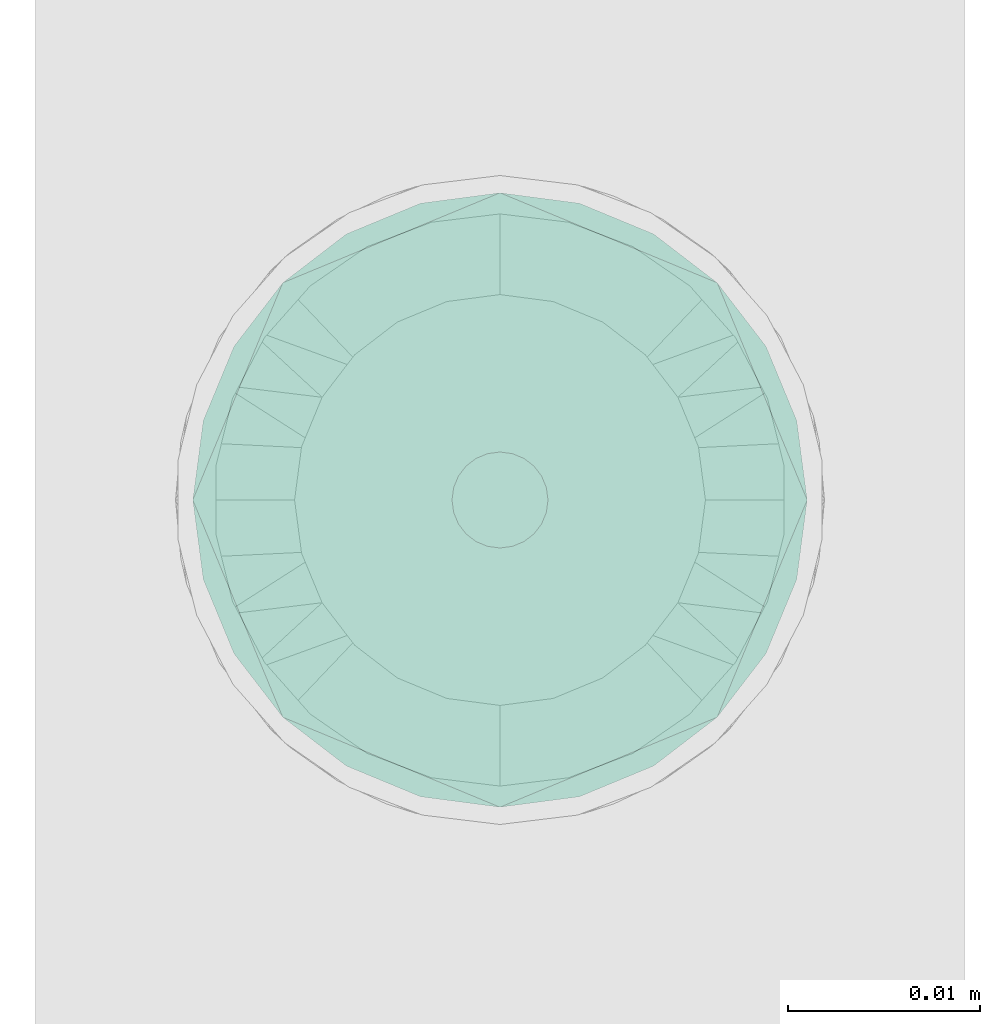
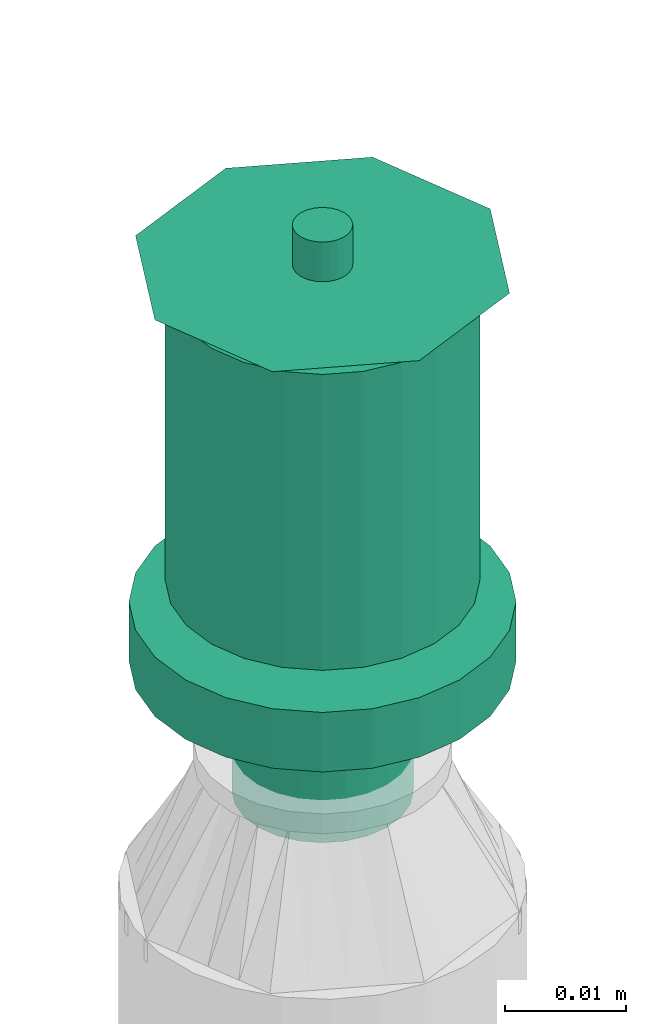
# One storey, part 45 of 63: 1 flow terminal.
"""IFC2X3 building model written with IfcOpenShell, lengths in millimetres."""

from ifc_helpers import new_model, entity, si_unit, converted_unit, derived_unit, direction, frame, origin_with_axes, place, context, subcontext, project, spatial, open_shell, surface_model, source, transform, mapped, type_object, element, save


model = new_model("IFC2X3")

# Units and contexts
model_context = context("Model", 3, precision=0.01, world=frame((0.0, 4.29681676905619e-09, 0.0)), true_north=direction((4.01073788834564e-13, 1.0)))
plan_context = context("Plan", 3, precision=0.01, world=frame((0.0, 4.29681676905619e-09, 0.0)), true_north=direction((4.01073788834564e-13, 1.0)))
body_context = subcontext(model_context, "Body", "Model", "MODEL_VIEW")
ifc_project = project(units=[converted_unit("PLANEANGLEUNIT", "DEGREE", entity("IfcPositiveLengthMeasure", 0.0174532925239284), si_unit("PLANEANGLEUNIT", "RADIAN"), dimensions=[0, 0, 0, 0, 0, 0, 0]), si_unit("AREAUNIT", "SQUARE_METRE"), si_unit("LENGTHUNIT", "METRE", prefix="MILLI"), si_unit("MASSUNIT", "GRAM", prefix="KILO"), si_unit("POWERUNIT", "WATT"), si_unit("PRESSUREUNIT", "PASCAL", prefix="KILO"), si_unit("FORCEUNIT", "NEWTON", prefix="KILO"), si_unit("ELECTRICVOLTAGEUNIT", "VOLT"), si_unit("ELECTRICCURRENTUNIT", "AMPERE"), si_unit("THERMODYNAMICTEMPERATUREUNIT", "DEGREE_CELSIUS"), si_unit("TIMEUNIT", "SECOND"), si_unit("VOLUMEUNIT", "CUBIC_METRE"), derived_unit("LINEARVELOCITYUNIT", [(si_unit("LENGTHUNIT", "METRE"), 1), (si_unit("TIMEUNIT", "SECOND"), -1)]), derived_unit("VOLUMETRICFLOWRATEUNIT", [(si_unit("VOLUMEUNIT", "CUBIC_METRE"), 1), (si_unit("TIMEUNIT", "SECOND"), -1)]), derived_unit("THERMALTRANSMITTANCEUNIT", [(si_unit("POWERUNIT", "WATT"), 1), (si_unit("THERMODYNAMICTEMPERATUREUNIT", "KELVIN"), -1), (si_unit("AREAUNIT", "SQUARE_METRE"), -1)]), derived_unit("SOUNDPRESSUREUNIT", [(si_unit("PRESSUREUNIT", "PASCAL"), 1)])], contexts=[model_context, plan_context])

# Site, building, storey
site_placement = place(None, frame((0.0, -4.29681676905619e-09, 0.0), z_axis=(0.0, 0.0, 1.0), x_axis=(1.0, 0.0, 0.0)))
site = spatial("IfcSite", under=ifc_project, at=site_placement, CompositionType="ELEMENT")
building_placement = place(site_placement, frame((0.0, 4.29681676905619e-09, 0.0), z_axis=(0.0, 0.0, 1.0), x_axis=(1.0, 0.0, 0.0)))
building = spatial("IfcBuilding", under=site, at=building_placement, Name="mc-building", CompositionType="ELEMENT")
storey_placement = place(building_placement, frame((0.0, 0.0, 207370.0), z_axis=(0.0, 0.0, 1.0), x_axis=(1.0, 0.0, 0.0)))
storey = spatial("IfcBuildingStorey", under=building, at=storey_placement, Name="Nivå E", CompositionType="ELEMENT", Elevation=207370.0)

# Flow terminal
fire_suppression_terminal_type = type_object("IfcFireSuppressionTerminalType", Name="68DGR-STD-STÅENDE", PredefinedType="NOTDEFINED")
shared_shape = source(origin_with_axes(), body_context, "Body", "SurfaceModel", [
    surface_model("IfcShellBasedSurfaceModel", [(3.36465, -12.55704, 51.0), (6.5, -11.25833, 51.0), (9.19239, -9.19239, 51.0), (12.55704, -3.36465, 51.0), (-11.25833, -6.5, 51.0), (11.25833, -6.5, 51.0), (-13.0, 0.0, 51.0), (0.0, -13.0, 51.0), (-6.5, -11.25833, 51.0), (-3.36465, -12.55704, 51.0), (-9.19239, -9.19239, 51.0), (-12.55704, -3.36465, 51.0), (13.0, 0.0, 51.0), (12.55704, 3.36465, 51.0), (11.25833, 6.5, 51.0), (9.19239, 9.19239, 51.0), (6.5, 11.25833, 51.0), (3.36465, 12.55704, 51.0), (0.0, 13.0, 51.0), (-3.36465, 12.55704, 51.0), (-12.55704, 3.36465, 51.0), (-9.19239, 9.19239, 51.0), (-11.25833, 6.5, 51.0), (-6.5, 11.25833, 51.0), (0.0, 13.0, 21.14766), (3.36465, 12.55704, 21.14766), (6.5, 11.25833, 21.14766), (-3.36465, 12.55704, 21.14766), (9.19239, 9.19239, 21.14766), (11.25833, 6.5, 21.14766), (12.55704, 3.36465, 21.14766), (-12.55704, 3.36465, 21.14766), (-11.25833, -6.5, 21.14766), (-9.19239, 9.19239, 21.14766), (-6.5, 11.25833, 21.14766), (-11.25833, 6.5, 21.14766), (-13.0, 0.0, 21.14766), (12.55704, -3.36465, 21.14766), (9.19239, -9.19239, 21.14766), (11.25833, -6.5, 21.14766), (6.5, -11.25833, 21.14766), (3.36465, -12.55704, 21.14766), (-6.5, -11.25833, 21.14766), (-9.19239, -9.19239, 21.14766), (-12.55704, -3.36465, 21.14766), (0.0, -13.0, 21.14766), (-3.36465, -12.55704, 21.14766), (13.0, 0.0, 21.14766), (7.24444, -1.94114, 0.1), (1.94114, -7.24444, 0.1), (3.75, -6.49519, 0.1), (5.3033, -5.3033, 0.1), (-5.3033, -5.3033, 0.1), (6.49519, -3.75, 0.1), (5.3033, 5.3033, 0.1), (0.0, -7.5, 0.1), (-3.75, -6.49519, 0.1), (-1.94114, -7.24444, 0.1), (-7.24444, -1.94114, 0.1), (-6.49519, -3.75, 0.1), (-7.24444, 1.94114, 0.1), (7.5, 0.0, 0.1), (6.49519, 3.75, 0.1), (-6.49519, 3.75, 0.1), (1.94114, 7.24444, 0.1), (0.0, 7.5, 0.1), (3.75, 6.49519, 0.1), (-7.5, 0.0, 0.1), (-5.3033, 5.3033, 0.1), (-1.94114, 7.24444, 0.1), (-3.75, 6.49519, 0.1), (7.24444, 1.94114, 0.1), (1.94114, 7.24444, -0.1), (-6.49519, 3.75, -0.1), (0.0, 7.5, -0.1), (5.3033, 5.3033, -0.1), (3.75, 6.49519, -0.1), (6.49519, 3.75, -0.1), (7.24444, 1.94114, -0.1), (-1.94114, 7.24444, -0.1), (-5.3033, 5.3033, -0.1), (-3.75, 6.49519, -0.1), (-7.24444, 1.94114, -0.1), (-7.24444, -1.94114, -0.1), (-7.5, 0.0, -0.1), (7.5, 0.0, -0.1), (7.24444, -1.94114, -0.1), (-5.3033, -5.3033, -0.1), (1.94114, -7.24444, -0.1), (6.49519, -3.75, -0.1), (5.3033, -5.3033, -0.1), (3.75, -6.49519, -0.1), (-6.49519, -3.75, -0.1), (-3.75, -6.49519, -0.1), (0.0, -7.5, -0.1), (-1.94114, -7.24444, -0.1), (0.0, -2.5, 51.0), (-2.5, 0.0, 51.0), (0.0, 2.5, 51.0), (2.5, 0.0, 51.0), (0.0, -16.0, 53.0), (11.31371, -11.31371, 53.0), (-11.31371, -11.31371, 53.0), (-16.0, 0.0, 53.0), (16.0, 0.0, 53.0), (11.31371, 11.31371, 53.0), (0.0, 16.0, 53.0), (-11.31371, 11.31371, 53.0), (1.25, -2.16506, 57.0), (0.0, -2.5, 57.0), (0.64705, -2.41481, 57.0), (2.41481, -0.64705, 57.0), (1.76777, -1.76777, 57.0), (-2.41481, -0.64705, 57.0), (-2.5, 0.0, 57.0), (2.16506, -1.25, 57.0), (-1.25, -2.16506, 57.0), (-0.64705, -2.41481, 57.0), (-1.76777, -1.76777, 57.0), (-2.16506, -1.25, 57.0), (2.5, 0.0, 57.0), (2.41481, 0.64705, 57.0), (2.16506, 1.25, 57.0), (1.76777, 1.76777, 57.0), (0.64705, 2.41481, 57.0), (1.25, 2.16506, 57.0), (-1.76777, 1.76777, 57.0), (0.0, 2.5, 57.0), (-2.16506, 1.25, 57.0), (-2.41481, 0.64705, 57.0), (-0.64705, 2.41481, 57.0), (-1.25, 2.16506, 57.0), (1.25, 2.16506, 51.0), (1.76777, 1.76777, 51.0), (1.15, 1.99186, 51.0), (0.59528, 2.22163, 51.0), (0.64705, 2.41481, 51.0), (0.0, 2.3, 51.0), (1.62635, 1.62635, 51.0), (2.41481, 0.64705, 51.0), (2.3, 0.0, 51.0), (2.22163, 0.59528, 51.0), (2.16506, 1.25, 51.0), (1.99186, 1.15, 51.0), (-0.59528, 2.22163, 51.0), (-0.64705, 2.41481, 51.0), (-1.15, 1.99186, 51.0), (-1.76777, 1.76777, 51.0), (-1.25, 2.16506, 51.0), (-1.62635, 1.62635, 51.0), (-1.99186, 1.15, 51.0), (-2.16506, 1.25, 51.0), (-2.22163, 0.59528, 51.0), (-2.41481, 0.64705, 51.0), (-2.3, 0.0, 51.0), (2.41481, -0.64705, 51.0), (2.22163, -0.59528, 51.0), (1.99186, -1.15, 51.0), (2.16506, -1.25, 51.0), (1.62635, -1.62635, 51.0), (1.76777, -1.76777, 51.0), (1.25, -2.16506, 51.0), (1.15, -1.99186, 51.0), (0.59528, -2.22163, 51.0), (0.64705, -2.41481, 51.0), (0.0, -2.3, 51.0), (-2.16506, -1.25, 51.0), (-1.99186, -1.15, 51.0), (-1.76777, -1.76777, 51.0), (-1.62635, -1.62635, 51.0), (-2.41481, -0.64705, 51.0), (-2.22163, -0.59528, 51.0), (-0.59528, -2.22163, 51.0), (-0.64705, -2.41481, 51.0), (-1.15, -1.99186, 51.0), (-1.25, -2.16506, 51.0), (1.62635, -1.62635, 56.8), (1.15, -1.99186, 56.8), (0.59528, -2.22163, 56.8), (0.0, -2.3, 56.8), (2.22163, 0.59528, 56.8), (1.99186, -1.15, 56.8), (2.22163, -0.59528, 56.8), (-0.59528, -2.22163, 56.8), (-1.15, -1.99186, 56.8), (-1.62635, -1.62635, 56.8), (-1.99186, -1.15, 56.8), (-2.22163, -0.59528, 56.8), (-1.99186, 1.15, 56.8), (2.3, 0.0, 56.8), (1.62635, 1.62635, 56.8), (1.99186, 1.15, 56.8), (1.15, 1.99186, 56.8), (0.0, 2.3, 56.8), (0.59528, 2.22163, 56.8), (-2.22163, 0.59528, 56.8), (-2.3, 0.0, 56.8), (-1.15, 1.99186, 56.8), (-0.59528, 2.22163, 56.8), (-1.62635, 1.62635, 56.8), (4.1411, -15.45481, 19.0), (8.0, -13.85641, 19.0), (11.31371, -11.31371, 19.0), (-8.0, -13.85641, 19.0), (15.45481, -4.1411, 19.0), (16.0, 0.0, 19.0), (13.85641, -8.0, 19.0), (0.0, -16.0, 19.0), (-4.1411, -15.45481, 19.0), (-13.85641, -8.0, 19.0), (-11.31371, -11.31371, 19.0), (-15.45481, -4.1411, 19.0), (15.45481, 4.1411, 19.0), (13.85641, 8.0, 19.0), (11.31371, 11.31371, 19.0), (-4.1411, 15.45481, 19.0), (8.0, 13.85641, 19.0), (4.1411, 15.45481, 19.0), (0.0, 16.0, 19.0), (-13.85641, 8.0, 19.0), (-15.45481, 4.1411, 19.0), (-16.0, 0.0, 19.0), (-11.31371, 11.31371, 19.0), (-8.0, 13.85641, 19.0), (0.0, 16.0, 13.0), (4.1411, 15.45481, 13.0), (8.0, 13.85641, 13.0), (-4.1411, 15.45481, 13.0), (11.31371, 11.31371, 13.0), (13.85641, 8.0, 13.0), (15.45481, 4.1411, 13.0), (-15.45481, -4.1411, 13.0), (-11.31371, 11.31371, 13.0), (-8.0, 13.85641, 13.0), (-13.85641, 8.0, 13.0), (-15.45481, 4.1411, 13.0), (-16.0, 0.0, 13.0), (4.1411, -15.45481, 13.0), (16.0, 0.0, 13.0), (15.45481, -4.1411, 13.0), (13.85641, -8.0, 13.0), (11.31371, -11.31371, 13.0), (8.0, -13.85641, 13.0), (-8.0, -13.85641, 13.0), (-13.85641, -8.0, 13.0), (-11.31371, -11.31371, 13.0), (0.0, -16.0, 13.0), (-4.1411, -15.45481, 13.0), (7.24444, -1.94114, 13.0), (1.94114, -7.24444, 13.0), (3.75, -6.49519, 13.0), (5.3033, -5.3033, 13.0), (-5.3033, -5.3033, 13.0), (6.49519, -3.75, 13.0), (5.3033, 5.3033, 13.0), (0.0, -7.5, 13.0), (-3.75, -6.49519, 13.0), (-1.94114, -7.24444, 13.0), (-7.24444, -1.94114, 13.0), (-6.49519, -3.75, 13.0), (-7.24444, 1.94114, 13.0), (7.5, 0.0, 13.0), (6.49519, 3.75, 13.0), (-6.49519, 3.75, 13.0), (1.94114, 7.24444, 13.0), (0.0, 7.5, 13.0), (3.75, 6.49519, 13.0), (-7.5, 0.0, 13.0), (-5.3033, 5.3033, 13.0), (-1.94114, 7.24444, 13.0), (-3.75, 6.49519, 13.0), (7.24444, 1.94114, 13.0), (3.75, 6.49519, 0.0), (5.3033, 5.3033, 0.0), (3.65, 6.32199, 0.0), (1.88938, 7.05126, 0.0), (0.0, 7.3, 0.0), (1.94114, 7.24444, 0.0), (0.0, 7.5, 0.0), (5.16188, 5.16188, 0.0), (7.24444, 1.94114, 0.0), (7.3, 0.0, 0.0), (7.05126, 1.88938, 0.0), (7.5, 0.0, 0.0), (6.49519, 3.75, 0.0), (6.32199, 3.65, 0.0), (-1.88938, 7.05126, 0.0), (-1.94114, 7.24444, 0.0), (-3.65, 6.32199, 0.0), (-5.3033, 5.3033, 0.0), (-3.75, 6.49519, 0.0), (-5.16188, 5.16188, 0.0), (-6.32199, 3.65, 0.0), (-6.49519, 3.75, 0.0), (-7.05126, 1.88938, 0.0), (-7.24444, 1.94114, 0.0), (-7.3, 0.0, 0.0), (-7.5, 0.0, 0.0), (7.24444, -1.94114, 0.0), (7.05126, -1.88938, 0.0), (6.32199, -3.65, 0.0), (6.49519, -3.75, 0.0), (5.16188, -5.16188, 0.0), (5.3033, -5.3033, 0.0), (3.75, -6.49519, 0.0), (3.65, -6.32199, 0.0), (1.88938, -7.05126, 0.0), (1.94114, -7.24444, 0.0), (0.0, -7.3, 0.0), (0.0, -7.5, 0.0), (-6.49519, -3.75, 0.0), (-6.32199, -3.65, 0.0), (-5.3033, -5.3033, 0.0), (-5.16188, -5.16188, 0.0), (-7.24444, -1.94114, 0.0), (-7.05126, -1.88938, 0.0), (-1.88938, -7.05126, 0.0), (-1.94114, -7.24444, 0.0), (-3.65, -6.32199, 0.0), (-3.75, -6.49519, 0.0), (1.88938, -7.05126, 12.8), (0.0, -7.3, 12.8), (3.65, -6.32199, 12.8), (5.16188, -5.16188, 12.8), (6.32199, -3.65, 12.8), (7.05126, 1.88938, 12.8), (7.05126, -1.88938, 12.8), (-5.16188, -5.16188, 12.8), (-1.88938, -7.05126, 12.8), (-3.65, -6.32199, 12.8), (-6.32199, -3.65, 12.8), (-7.05126, -1.88938, 12.8), (0.0, 7.3, 12.8), (7.3, 0.0, 12.8), (6.32199, 3.65, 12.8), (5.16188, 5.16188, 12.8), (3.65, 6.32199, 12.8), (1.88938, 7.05126, 12.8), (-6.32199, 3.65, 12.8), (-7.05126, 1.88938, 12.8), (-7.3, 0.0, 12.8), (-3.65, 6.32199, 12.8), (-1.88938, 7.05126, 12.8), (-5.16188, 5.16188, 12.8)], [open_shell([[[0, 1, 2]], [[0, 2, 3]], [[0, 3, 4]], [[3, 2, 5]], [[6, 4, 3]], [[7, 8, 9]], [[7, 0, 8]], [[8, 4, 10]], [[0, 4, 8]], [[4, 6, 11]], [[6, 3, 12]], [[13, 14, 15]], [[6, 13, 15]], [[16, 17, 18]], [[15, 16, 19]], [[18, 19, 16]], [[20, 21, 22]], [[20, 6, 15]], [[21, 19, 23]], [[19, 21, 20]], [[15, 19, 20]], [[13, 6, 12]], [[24, 25, 26]], [[27, 24, 26]], [[28, 29, 30]], [[26, 28, 31]], [[28, 32, 31]], [[27, 33, 34]], [[33, 27, 31]], [[33, 31, 35]], [[27, 26, 31]], [[31, 32, 36]], [[32, 28, 30]], [[32, 30, 37]], [[38, 37, 39]], [[38, 40, 41]], [[38, 41, 37]], [[32, 37, 41]], [[32, 42, 43]], [[44, 36, 32]], [[42, 45, 46]], [[42, 32, 41]], [[45, 42, 41]], [[30, 47, 37]], [[4, 32, 43]], [[8, 42, 46]], [[43, 42, 10]], [[9, 46, 45]], [[36, 11, 6]], [[11, 36, 44]], [[11, 44, 4]], [[44, 32, 4]], [[43, 10, 4]], [[8, 10, 42]], [[46, 9, 8]], [[45, 7, 9]], [[0, 41, 40]], [[38, 1, 40]], [[5, 39, 37]], [[38, 39, 2]], [[3, 37, 47]], [[41, 0, 7]], [[40, 1, 0]], [[38, 2, 1]], [[39, 5, 2]], [[3, 5, 37]], [[47, 12, 3]], [[41, 7, 45]], [[30, 13, 47]], [[29, 14, 30]], [[25, 24, 17]], [[15, 29, 28]], [[30, 14, 13]], [[13, 12, 47]], [[16, 26, 17]], [[16, 15, 28]], [[26, 25, 17]], [[15, 14, 29]], [[28, 26, 16]], [[24, 18, 17]], [[19, 27, 34]], [[33, 23, 34]], [[22, 35, 31]], [[33, 35, 21]], [[20, 31, 36]], [[27, 19, 18]], [[34, 23, 19]], [[33, 21, 23]], [[35, 22, 21]], [[20, 22, 31]], [[36, 6, 20]], [[27, 18, 24]], [[48, 49, 50]], [[48, 50, 51]], [[49, 48, 52]], [[48, 51, 53]], [[54, 52, 48]], [[55, 56, 57]], [[56, 55, 52]], [[52, 58, 59]], [[52, 55, 49]], [[52, 60, 58]], [[54, 48, 61]], [[62, 54, 61]], [[54, 63, 52]], [[64, 65, 54]], [[64, 54, 66]], [[63, 54, 65]], [[63, 60, 52]], [[67, 58, 60]], [[68, 69, 70]], [[69, 68, 63]], [[69, 63, 65]], [[71, 62, 61]], [[72, 73, 74]], [[75, 72, 76]], [[75, 77, 78]], [[72, 75, 73]], [[78, 73, 75]], [[79, 80, 81]], [[80, 79, 73]], [[74, 73, 79]], [[78, 82, 73]], [[82, 83, 84]], [[82, 78, 85]], [[86, 87, 85]], [[88, 86, 89]], [[90, 91, 88]], [[90, 88, 89]], [[87, 86, 88]], [[83, 87, 92]], [[83, 85, 87]], [[93, 94, 95]], [[94, 93, 87]], [[88, 94, 87]], [[85, 83, 82]], [[83, 58, 84]], [[92, 59, 83]], [[56, 87, 93]], [[92, 87, 52]], [[57, 93, 95]], [[83, 59, 58]], [[58, 67, 84]], [[57, 56, 93]], [[52, 87, 56]], [[52, 59, 92]], [[55, 57, 95]], [[95, 94, 55]], [[88, 49, 94]], [[91, 50, 88]], [[53, 90, 89]], [[91, 90, 51]], [[48, 89, 86]], [[91, 51, 50]], [[50, 49, 88]], [[61, 48, 86]], [[53, 89, 48]], [[53, 51, 90]], [[85, 61, 86]], [[94, 49, 55]], [[78, 71, 85]], [[77, 62, 78]], [[66, 75, 76]], [[77, 75, 54]], [[64, 76, 72]], [[78, 62, 71]], [[71, 61, 85]], [[64, 66, 76]], [[54, 75, 66]], [[54, 62, 77]], [[65, 64, 72]], [[72, 74, 65]], [[79, 69, 74]], [[81, 70, 79]], [[63, 80, 73]], [[81, 80, 68]], [[60, 73, 82]], [[81, 68, 70]], [[70, 69, 79]], [[67, 60, 82]], [[63, 73, 60]], [[63, 68, 80]], [[84, 67, 82]], [[74, 69, 65]], [[96, 97, 98]], [[98, 99, 96]], [[100, 101, 102]], [[103, 102, 101]], [[101, 104, 103]], [[104, 105, 106]], [[107, 103, 106]], [[106, 103, 104]], [[99, 98, 105]], [[105, 104, 99]], [[98, 106, 105]], [[98, 107, 106]], [[107, 98, 97]], [[103, 107, 97]], [[97, 96, 102]], [[102, 103, 97]], [[96, 100, 102]], [[96, 101, 100]], [[101, 96, 99]], [[104, 101, 99]], [[108, 109, 110]], [[111, 108, 112]], [[113, 108, 114]], [[111, 112, 115]], [[108, 111, 114]], [[109, 116, 117]], [[116, 109, 118]], [[118, 113, 119]], [[118, 109, 108]], [[108, 113, 118]], [[111, 120, 114]], [[121, 122, 123]], [[114, 121, 123]], [[114, 123, 124]], [[124, 123, 125]], [[126, 124, 127]], [[124, 128, 129]], [[129, 114, 124]], [[126, 130, 131]], [[128, 124, 126]], [[130, 126, 127]], [[121, 114, 120]], [[132, 133, 134]], [[132, 134, 135]], [[136, 135, 137]], [[135, 136, 132]], [[136, 137, 98]], [[134, 133, 138]], [[139, 140, 141]], [[140, 139, 99]], [[139, 141, 142]], [[138, 142, 143]], [[142, 138, 133]], [[143, 142, 141]], [[98, 144, 145]], [[98, 137, 144]], [[145, 144, 146]], [[147, 148, 149]], [[146, 148, 145]], [[149, 148, 146]], [[150, 151, 147]], [[151, 150, 152]], [[150, 147, 149]], [[153, 152, 154]], [[152, 153, 151]], [[153, 154, 97]], [[99, 155, 156]], [[156, 155, 157]], [[157, 158, 159]], [[158, 157, 155]], [[159, 158, 160]], [[160, 161, 162]], [[162, 161, 163]], [[163, 164, 165]], [[164, 163, 161]], [[165, 164, 96]], [[162, 159, 160]], [[166, 167, 168]], [[168, 167, 169]], [[167, 166, 170]], [[97, 171, 170]], [[170, 171, 167]], [[97, 154, 171]], [[172, 96, 173]], [[172, 173, 174]], [[169, 175, 168]], [[175, 169, 174]], [[175, 174, 173]], [[165, 96, 172]], [[156, 140, 99]], [[170, 113, 97]], [[166, 119, 170]], [[116, 168, 175]], [[166, 168, 118]], [[117, 175, 173]], [[170, 119, 113]], [[113, 114, 97]], [[117, 116, 175]], [[118, 168, 116]], [[118, 119, 166]], [[109, 117, 173]], [[173, 96, 109]], [[164, 110, 96]], [[161, 108, 164]], [[115, 160, 158]], [[161, 160, 112]], [[111, 158, 155]], [[161, 112, 108]], [[108, 110, 164]], [[120, 111, 155]], [[115, 158, 111]], [[115, 112, 160]], [[99, 120, 155]], [[96, 110, 109]], [[139, 121, 99]], [[142, 122, 139]], [[125, 133, 132]], [[142, 133, 123]], [[124, 132, 136]], [[139, 122, 121]], [[121, 120, 99]], [[124, 125, 132]], [[123, 133, 125]], [[123, 122, 142]], [[127, 124, 136]], [[136, 98, 127]], [[145, 130, 98]], [[148, 131, 145]], [[128, 147, 151]], [[148, 147, 126]], [[129, 151, 153]], [[148, 126, 131]], [[131, 130, 145]], [[114, 129, 153]], [[128, 151, 129]], [[128, 126, 147]], [[97, 114, 153]], [[98, 130, 127]], [[176, 177, 178]], [[176, 178, 179]], [[180, 176, 179]], [[181, 176, 182]], [[180, 182, 176]], [[183, 184, 179]], [[185, 179, 184]], [[186, 187, 185]], [[185, 187, 188]], [[179, 185, 188]], [[189, 182, 180]], [[190, 191, 180]], [[192, 190, 180]], [[193, 194, 192]], [[180, 193, 192]], [[188, 193, 180]], [[195, 188, 196]], [[196, 188, 187]], [[197, 198, 199]], [[188, 199, 198]], [[188, 198, 193]], [[180, 179, 188]], [[154, 187, 171]], [[171, 186, 167]], [[174, 169, 184]], [[185, 169, 167]], [[172, 174, 183]], [[187, 186, 171]], [[154, 196, 187]], [[174, 184, 183]], [[184, 169, 185]], [[167, 186, 185]], [[172, 183, 179]], [[179, 165, 172]], [[165, 178, 163]], [[163, 177, 162]], [[157, 159, 181]], [[176, 159, 162]], [[156, 157, 182]], [[177, 176, 162]], [[163, 178, 177]], [[156, 182, 189]], [[182, 157, 181]], [[159, 176, 181]], [[156, 189, 140]], [[179, 178, 165]], [[140, 180, 141]], [[141, 191, 143]], [[134, 138, 192]], [[190, 138, 143]], [[135, 134, 194]], [[180, 191, 141]], [[140, 189, 180]], [[134, 192, 194]], [[192, 138, 190]], [[143, 191, 190]], [[135, 194, 193]], [[193, 137, 135]], [[137, 198, 144]], [[144, 197, 146]], [[150, 149, 188]], [[199, 149, 146]], [[152, 150, 195]], [[197, 199, 146]], [[144, 198, 197]], [[152, 195, 196]], [[195, 150, 188]], [[149, 199, 188]], [[152, 196, 154]], [[193, 198, 137]], [[200, 201, 202]], [[203, 200, 202]], [[204, 205, 202]], [[204, 202, 206]], [[203, 202, 205]], [[207, 203, 208]], [[207, 200, 203]], [[203, 209, 210]], [[209, 203, 211]], [[205, 211, 203]], [[205, 212, 211]], [[212, 213, 214]], [[215, 212, 214]], [[216, 217, 218]], [[214, 216, 215]], [[218, 215, 216]], [[211, 219, 220]], [[221, 211, 220]], [[222, 215, 223]], [[215, 222, 219]], [[219, 211, 215]], [[211, 212, 215]], [[224, 225, 226]], [[227, 224, 226]], [[228, 229, 230]], [[227, 226, 228]], [[227, 228, 231]], [[227, 232, 233]], [[232, 227, 234]], [[234, 231, 235]], [[231, 234, 227]], [[235, 231, 236]], [[228, 230, 231]], [[237, 238, 239]], [[237, 239, 240]], [[241, 242, 237]], [[241, 237, 240]], [[238, 237, 243]], [[244, 243, 245]], [[243, 244, 231]], [[243, 246, 247]], [[243, 231, 238]], [[237, 246, 243]], [[238, 231, 230]], [[231, 211, 236]], [[244, 209, 231]], [[203, 245, 243]], [[244, 245, 210]], [[208, 243, 247]], [[231, 209, 211]], [[211, 221, 236]], [[208, 203, 243]], [[210, 245, 203]], [[210, 209, 244]], [[207, 208, 247]], [[247, 246, 207]], [[237, 200, 246]], [[242, 201, 237]], [[206, 241, 240]], [[242, 241, 202]], [[204, 240, 239]], [[242, 202, 201]], [[201, 200, 237]], [[205, 204, 239]], [[206, 240, 204]], [[206, 202, 241]], [[238, 205, 239]], [[246, 200, 207]], [[230, 212, 238]], [[229, 213, 230]], [[216, 228, 226]], [[229, 228, 214]], [[217, 226, 225]], [[230, 213, 212]], [[212, 205, 238]], [[217, 216, 226]], [[214, 228, 216]], [[214, 213, 229]], [[218, 217, 225]], [[225, 224, 218]], [[227, 215, 224]], [[233, 223, 227]], [[219, 232, 234]], [[233, 232, 222]], [[220, 234, 235]], [[233, 222, 223]], [[223, 215, 227]], [[221, 220, 235]], [[219, 234, 220]], [[219, 222, 232]], [[236, 221, 235]], [[224, 215, 218]], [[248, 249, 250]], [[248, 250, 251]], [[249, 248, 252]], [[248, 251, 253]], [[254, 252, 248]], [[255, 256, 257]], [[256, 255, 252]], [[252, 258, 259]], [[252, 255, 249]], [[252, 260, 258]], [[254, 248, 261]], [[262, 254, 261]], [[254, 263, 252]], [[264, 265, 254]], [[264, 254, 266]], [[263, 254, 265]], [[263, 260, 252]], [[267, 258, 260]], [[268, 269, 270]], [[269, 268, 263]], [[269, 263, 265]], [[271, 262, 261]], [[272, 273, 274]], [[272, 274, 275]], [[276, 277, 275]], [[277, 276, 278]], [[275, 277, 272]], [[274, 273, 279]], [[280, 281, 282]], [[281, 280, 283]], [[280, 282, 284]], [[279, 284, 285]], [[284, 279, 273]], [[285, 284, 282]], [[278, 286, 287]], [[287, 286, 288]], [[289, 290, 291]], [[288, 290, 287]], [[288, 291, 290]], [[278, 276, 286]], [[292, 293, 289]], [[293, 292, 294]], [[292, 289, 291]], [[295, 294, 296]], [[294, 295, 293]], [[295, 296, 297]], [[283, 298, 299]], [[299, 298, 300]], [[300, 301, 302]], [[301, 300, 298]], [[302, 301, 303]], [[303, 304, 305]], [[305, 304, 306]], [[306, 307, 308]], [[307, 306, 304]], [[308, 307, 309]], [[305, 302, 303]], [[310, 311, 312]], [[312, 311, 313]], [[311, 310, 314]], [[297, 315, 314]], [[314, 315, 311]], [[297, 296, 315]], [[316, 309, 317]], [[316, 317, 318]], [[313, 319, 312]], [[313, 318, 319]], [[319, 318, 317]], [[308, 309, 316]], [[299, 281, 283]], [[314, 258, 297]], [[310, 259, 314]], [[256, 312, 319]], [[310, 312, 252]], [[257, 319, 317]], [[314, 259, 258]], [[258, 267, 297]], [[257, 256, 319]], [[252, 312, 256]], [[252, 259, 310]], [[255, 257, 317]], [[317, 309, 255]], [[307, 249, 309]], [[304, 250, 307]], [[253, 303, 301]], [[304, 303, 251]], [[248, 301, 298]], [[304, 251, 250]], [[250, 249, 307]], [[261, 248, 298]], [[253, 301, 248]], [[253, 251, 303]], [[283, 261, 298]], [[309, 249, 255]], [[280, 271, 283]], [[284, 262, 280]], [[266, 273, 272]], [[284, 273, 254]], [[264, 272, 277]], [[280, 262, 271]], [[271, 261, 283]], [[264, 266, 272]], [[254, 273, 266]], [[254, 262, 284]], [[265, 264, 277]], [[277, 278, 265]], [[287, 269, 278]], [[290, 270, 287]], [[263, 289, 293]], [[290, 289, 268]], [[260, 293, 295]], [[290, 268, 270]], [[270, 269, 287]], [[267, 260, 295]], [[263, 293, 260]], [[263, 268, 289]], [[297, 267, 295]], [[278, 269, 265]], [[320, 321, 322]], [[323, 322, 324]], [[325, 326, 322]], [[324, 322, 326]], [[322, 327, 325]], [[328, 329, 321]], [[327, 321, 329]], [[330, 331, 327]], [[322, 321, 327]], [[331, 332, 327]], [[326, 325, 333]], [[334, 325, 332]], [[335, 334, 336]], [[332, 337, 336]], [[334, 332, 336]], [[331, 338, 332]], [[339, 338, 340]], [[340, 338, 331]], [[341, 342, 343]], [[332, 338, 343]], [[332, 343, 342]], [[332, 325, 327]], [[296, 331, 315]], [[315, 330, 311]], [[318, 313, 329]], [[327, 313, 311]], [[316, 318, 328]], [[331, 330, 315]], [[296, 340, 331]], [[318, 329, 328]], [[329, 313, 327]], [[311, 330, 327]], [[316, 328, 321]], [[321, 308, 316]], [[308, 320, 306]], [[306, 322, 305]], [[300, 302, 324]], [[323, 302, 305]], [[299, 300, 326]], [[322, 323, 305]], [[306, 320, 322]], [[299, 326, 333]], [[326, 300, 324]], [[302, 323, 324]], [[299, 333, 281]], [[321, 320, 308]], [[281, 325, 282]], [[282, 334, 285]], [[274, 279, 336]], [[335, 279, 285]], [[275, 274, 337]], [[325, 334, 282]], [[281, 333, 325]], [[274, 336, 337]], [[336, 279, 335]], [[285, 334, 335]], [[275, 337, 332]], [[332, 276, 275]], [[276, 342, 286]], [[286, 341, 288]], [[292, 291, 338]], [[343, 291, 288]], [[294, 292, 339]], [[341, 343, 288]], [[286, 342, 341]], [[294, 339, 340]], [[339, 292, 338]], [[291, 343, 338]], [[294, 340, 296]], [[332, 342, 276]]])]),
])
flow_terminal_placement = place(storey_placement, frame((728641.29045, 439411.81651, 3027.71994000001), z_axis=(0.0, 0.0, 1.0), x_axis=(1.0, 0.0, 0.0)))
element("IfcFlowTerminal", 1, at=flow_terminal_placement, inside=storey, type_object=fire_suppression_terminal_type, Name="68DGR-STD-STÅENDE", context=body_context, shape_type="MappedRepresentation", body=[
    mapped(shared_shape, transform((0.0, 0.0, 0.0), scale=1.0)),
])

save(model, "model.ifc")
